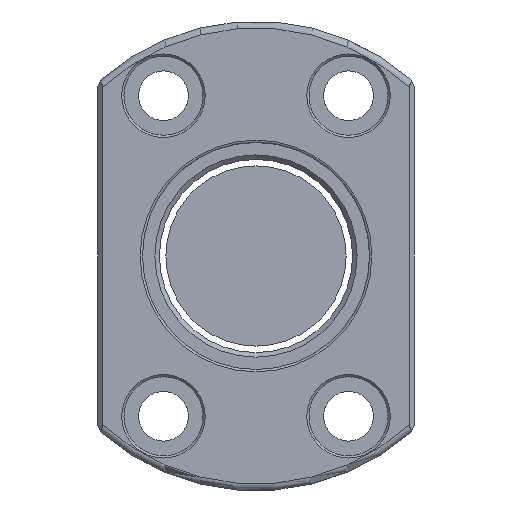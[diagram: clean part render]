
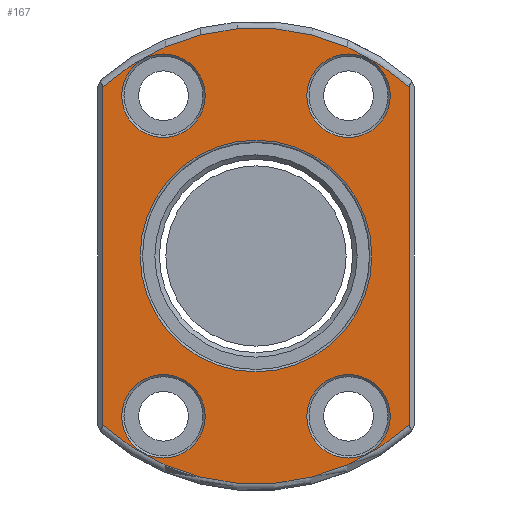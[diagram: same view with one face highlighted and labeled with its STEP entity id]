
A CAD part, front view. The second image highlights one B-rep face of the part: STEP entity #167.
In plain terms, the highlighted planar face has unit normal (0, -1, 0).
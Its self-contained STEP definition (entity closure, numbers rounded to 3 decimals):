
#56=LINE('',#1131,#80);
#57=LINE('',#1135,#81);
#80=VECTOR('',#908,1.);
#81=VECTOR('',#911,1.);
#127=PLANE('',#798);
#167=ADVANCED_FACE('',(#234,#235,#236,#237,#238,#239),#127,.T.);
#234=FACE_BOUND('',#314,.T.);
#235=FACE_BOUND('',#315,.T.);
#236=FACE_BOUND('',#316,.T.);
#237=FACE_BOUND('',#317,.T.);
#238=FACE_BOUND('',#318,.T.);
#239=FACE_BOUND('',#319,.T.);
#314=EDGE_LOOP('',(#410));
#315=EDGE_LOOP('',(#411));
#316=EDGE_LOOP('',(#412));
#317=EDGE_LOOP('',(#413));
#318=EDGE_LOOP('',(#414,#415,#416,#417));
#319=EDGE_LOOP('',(#418));
#410=ORIENTED_EDGE('',*,*,#653,.T.);
#411=ORIENTED_EDGE('',*,*,#654,.T.);
#412=ORIENTED_EDGE('',*,*,#655,.T.);
#413=ORIENTED_EDGE('',*,*,#656,.T.);
#414=ORIENTED_EDGE('',*,*,#657,.T.);
#415=ORIENTED_EDGE('',*,*,#658,.T.);
#416=ORIENTED_EDGE('',*,*,#659,.T.);
#417=ORIENTED_EDGE('',*,*,#660,.T.);
#418=ORIENTED_EDGE('',*,*,#661,.T.);
#582=VERTEX_POINT('',#1121);
#583=VERTEX_POINT('',#1123);
#584=VERTEX_POINT('',#1125);
#585=VERTEX_POINT('',#1127);
#586=VERTEX_POINT('',#1129);
#587=VERTEX_POINT('',#1130);
#588=VERTEX_POINT('',#1132);
#589=VERTEX_POINT('',#1134);
#590=VERTEX_POINT('',#1137);
#653=EDGE_CURVE('',#582,#582,#740,.T.);
#654=EDGE_CURVE('',#583,#583,#741,.T.);
#655=EDGE_CURVE('',#584,#584,#742,.T.);
#656=EDGE_CURVE('',#585,#585,#743,.T.);
#657=EDGE_CURVE('',#586,#587,#744,.T.);
#658=EDGE_CURVE('',#587,#588,#56,.T.);
#659=EDGE_CURVE('',#588,#589,#745,.T.);
#660=EDGE_CURVE('',#589,#586,#57,.T.);
#661=EDGE_CURVE('',#590,#590,#746,.T.);
#740=CIRCLE('',#791,9.25);
#741=CIRCLE('',#792,9.25);
#742=CIRCLE('',#793,9.25);
#743=CIRCLE('',#794,9.25);
#744=CIRCLE('',#795,50.5);
#745=CIRCLE('',#796,50.5);
#746=CIRCLE('',#797,25.65);
#791=AXIS2_PLACEMENT_3D('',#1120,#898,#899);
#792=AXIS2_PLACEMENT_3D('',#1122,#900,#901);
#793=AXIS2_PLACEMENT_3D('',#1124,#902,#903);
#794=AXIS2_PLACEMENT_3D('',#1126,#904,#905);
#795=AXIS2_PLACEMENT_3D('',#1128,#906,#907);
#796=AXIS2_PLACEMENT_3D('',#1133,#909,#910);
#797=AXIS2_PLACEMENT_3D('',#1136,#912,#913);
#798=AXIS2_PLACEMENT_3D('',#1138,#914,#915);
#898=DIRECTION('',(0.,1.,0.));
#899=DIRECTION('',(0.,0.,-1.));
#900=DIRECTION('',(0.,1.,0.));
#901=DIRECTION('',(0.,0.,-1.));
#902=DIRECTION('',(0.,1.,0.));
#903=DIRECTION('',(0.,0.,-1.));
#904=DIRECTION('',(0.,1.,0.));
#905=DIRECTION('',(0.,0.,-1.));
#906=DIRECTION('',(0.,-1.,0.));
#907=DIRECTION('',(0.,0.,-1.));
#908=DIRECTION('',(0.,0.,-1.));
#909=DIRECTION('',(0.,-1.,0.));
#910=DIRECTION('',(0.,0.,-1.));
#911=DIRECTION('',(0.,0.,1.));
#912=DIRECTION('',(0.,1.,0.));
#913=DIRECTION('',(0.,0.,-1.));
#914=DIRECTION('',(0.,-1.,0.));
#915=DIRECTION('',(0.,0.,-1.));
#1120=CARTESIAN_POINT('',(20.5,0.,35.507));
#1121=CARTESIAN_POINT('',(20.5,0.,26.257));
#1122=CARTESIAN_POINT('',(20.5,0.,-35.507));
#1123=CARTESIAN_POINT('',(20.5,0.,-44.757));
#1124=CARTESIAN_POINT('',(-20.5,0.,-35.507));
#1125=CARTESIAN_POINT('',(-20.5,0.,-44.757));
#1126=CARTESIAN_POINT('',(-20.5,0.,35.507));
#1127=CARTESIAN_POINT('',(-20.5,0.,26.257));
#1128=CARTESIAN_POINT('',(0.,0.,0.));
#1129=CARTESIAN_POINT('',(34.,0.,37.34));
#1130=CARTESIAN_POINT('',(-34.,0.,37.34));
#1131=CARTESIAN_POINT('',(-34.,0.,0.));
#1132=CARTESIAN_POINT('',(-34.,0.,-37.34));
#1133=CARTESIAN_POINT('',(0.,0.,0.));
#1134=CARTESIAN_POINT('',(34.,0.,-37.34));
#1135=CARTESIAN_POINT('',(34.,0.,36.404));
#1136=CARTESIAN_POINT('',(0.,0.,0.));
#1137=CARTESIAN_POINT('',(0.,0.,-25.65));
#1138=CARTESIAN_POINT('',(0.,0.,0.));
